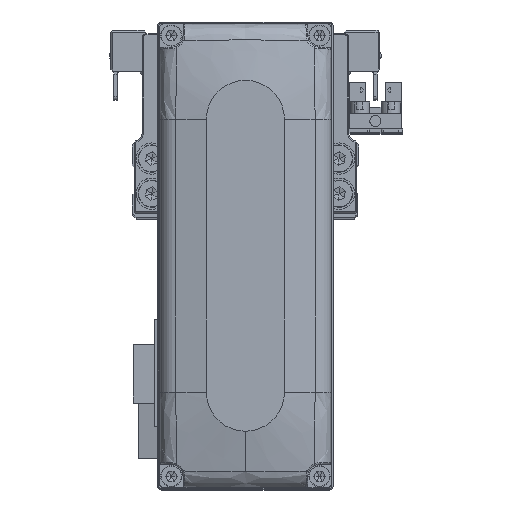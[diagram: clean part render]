
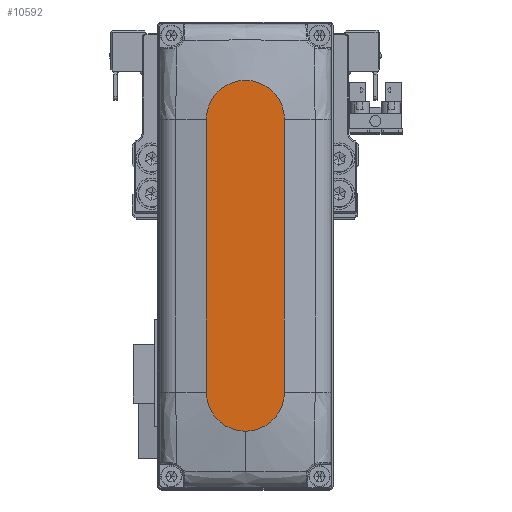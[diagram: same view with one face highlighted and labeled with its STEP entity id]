
A CAD part, top view. The second image highlights one B-rep face of the part: STEP entity #10592.
In plain terms, the highlighted planar face has unit normal (0, 0, 1).
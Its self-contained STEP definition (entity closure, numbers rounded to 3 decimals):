
#551 = CARTESIAN_POINT ( 'NONE',  ( -35., -10., 28. ) ) ;
#1794 = EDGE_LOOP ( 'NONE', ( #32122, #9633, #31944, #19374, #5064 ) ) ;
#2029 = DIRECTION ( 'NONE',  ( 0., 0., 1. ) ) ;
#2542 = EDGE_CURVE ( 'NONE', #14387, #2932, #26235, .T. ) ;
#2932 = VERTEX_POINT ( 'NONE', #17602 ) ;
#3185 = EDGE_CURVE ( 'NONE', #6768, #14387, #33933, .T. ) ;
#3402 = DIRECTION ( 'NONE',  ( 1., 0., 0. ) ) ;
#4112 = VECTOR ( 'NONE', #32223, 1000. ) ;
#4304 = EDGE_CURVE ( 'NONE', #2932, #20992, #9320, .T. ) ;
#5064 = ORIENTED_EDGE ( 'NONE', *, *, #2542, .T. ) ;
#5120 = DIRECTION ( 'NONE',  ( 0., 0., 1. ) ) ;
#5712 = VECTOR ( 'NONE', #7118, 1000. ) ;
#6354 = DIRECTION ( 'NONE',  ( 0., 0., 1. ) ) ;
#6768 = VERTEX_POINT ( 'NONE', #19702 ) ;
#7118 = DIRECTION ( 'NONE',  ( 1., 0., 0. ) ) ;
#7437 = EDGE_CURVE ( 'NONE', #20992, #12521, #25144, .T. ) ;
#7932 = FACE_OUTER_BOUND ( 'NONE', #1794, .T. ) ;
#8967 = AXIS2_PLACEMENT_3D ( 'NONE', #32040, #6354, #17790 ) ;
#9320 = LINE ( 'NONE', #20775, #4112 ) ;
#9633 = ORIENTED_EDGE ( 'NONE', *, *, #7437, .T. ) ;
#10058 = AXIS2_PLACEMENT_3D ( 'NONE', #17637, #29087, #3402 ) ;
#10592 = ADVANCED_FACE ( 'NONE', ( #7932 ), #19365, .T. ) ;
#12521 = VERTEX_POINT ( 'NONE', #551 ) ;
#13452 = DIRECTION ( 'NONE',  ( 1., 0., 0. ) ) ;
#14387 = VERTEX_POINT ( 'NONE', #32382 ) ;
#16549 = DIRECTION ( 'NONE',  ( 1., 0., 0. ) ) ;
#17602 = CARTESIAN_POINT ( 'NONE',  ( 35., 10., 28. ) ) ;
#17637 = CARTESIAN_POINT ( 'NONE',  ( 35., 0., 28. ) ) ;
#17790 = DIRECTION ( 'NONE',  ( 1., 0., 0. ) ) ;
#17801 = AXIS2_PLACEMENT_3D ( 'NONE', #27730, #2029, #13452 ) ;
#19365 = PLANE ( 'NONE',  #35428 ) ;
#19374 = ORIENTED_EDGE ( 'NONE', *, *, #3185, .T. ) ;
#19702 = CARTESIAN_POINT ( 'NONE',  ( 35., -10., 28. ) ) ;
#20775 = CARTESIAN_POINT ( 'NONE',  ( -35., 10., 28. ) ) ;
#20992 = VERTEX_POINT ( 'NONE', #25227 ) ;
#21366 = LINE ( 'NONE', #32807, #5712 ) ;
#25144 = CIRCLE ( 'NONE', #8967, 10. ) ;
#25227 = CARTESIAN_POINT ( 'NONE',  ( -35., 10., 28. ) ) ;
#26235 = CIRCLE ( 'NONE', #10058, 10. ) ;
#27730 = CARTESIAN_POINT ( 'NONE',  ( 35., 0., 28. ) ) ;
#29087 = DIRECTION ( 'NONE',  ( 0., 0., 1. ) ) ;
#30807 = CARTESIAN_POINT ( 'NONE',  ( 0., 0., 28. ) ) ;
#31255 = EDGE_CURVE ( 'NONE', #12521, #6768, #21366, .T. ) ;
#31944 = ORIENTED_EDGE ( 'NONE', *, *, #31255, .T. ) ;
#32040 = CARTESIAN_POINT ( 'NONE',  ( -35., 0., 28. ) ) ;
#32122 = ORIENTED_EDGE ( 'NONE', *, *, #4304, .T. ) ;
#32223 = DIRECTION ( 'NONE',  ( -1., 0., 0. ) ) ;
#32382 = CARTESIAN_POINT ( 'NONE',  ( 45., 0., 28. ) ) ;
#32807 = CARTESIAN_POINT ( 'NONE',  ( -35., -10., 28. ) ) ;
#33933 = CIRCLE ( 'NONE', #17801, 10. ) ;
#35428 = AXIS2_PLACEMENT_3D ( 'NONE', #30807, #5120, #16549 ) ;
